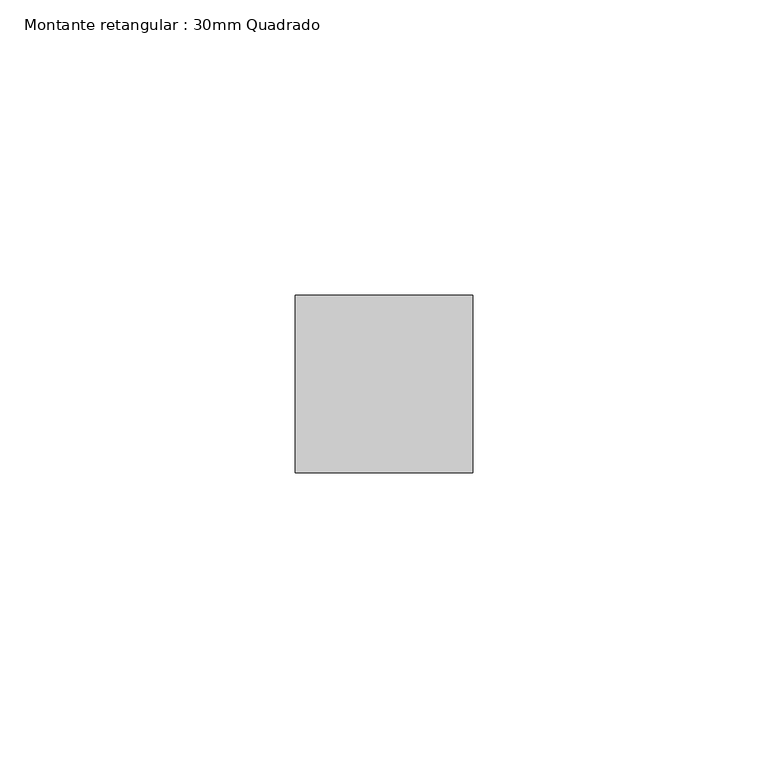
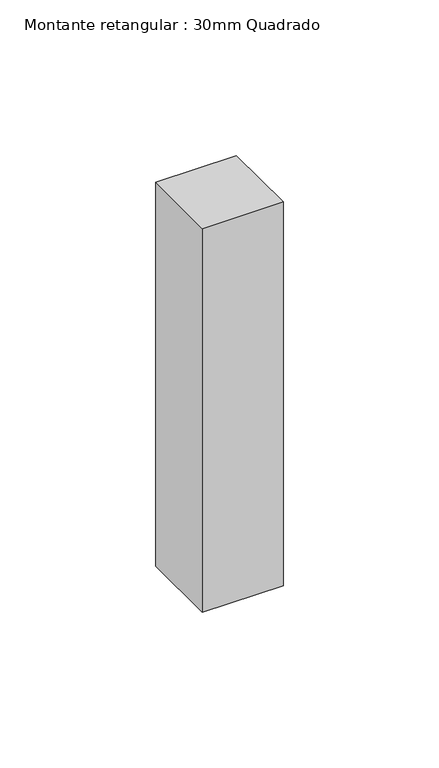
"""IFC4 building model written with IfcOpenShell, lengths in millimetres: member geometry, Montante retangular : 30mm Quadrado."""

from ifc_helpers import new_model, si_unit, frame, origin, place, context, project, spatial, polyline, outline, extrude, source, transform, mapped, element, save


def montante_retangular_30mm_quadrado_b6c22345(model_context):
    return source(origin(), model_context, "Body", "SweptSolid", [
        extrude(outline(polyline([(0.0, 15.0), (0.0, -15.0), (-30.0, -15.0), (-30.0, 15.0), (0.0, 15.0)])), frame((0.0, 0.0, -150.4776861), z_axis=(0.0, 0.0, 1.0), x_axis=(1.0, 0.0, 0.0)), (0.0, 0.0, 1.0), 150.4776861),
    ])


if __name__ == "__main__":
    model = new_model("IFC4")
    model_context = context("Model", 3, world=origin())
    ifc_project = project(units=[si_unit("LENGTHUNIT", "METRE", prefix="MILLI")], contexts=[model_context])
    site = spatial("IfcSite", under=ifc_project)
    building = spatial("IfcBuilding", under=site)
    placement = place(None, origin())
    montante_retangular_30mm_quadrado_shape = montante_retangular_30mm_quadrado_b6c22345(model_context)
    element("IfcMember", 1, ObjectType="Montante retangular : 30mm Quadrado", at=placement, inside=building, context=model_context, shape_type="MappedRepresentation", body=[
        mapped(montante_retangular_30mm_quadrado_shape, transform((0.0, 0.0, 0.0), x_axis=(1.0, 0.0, 0.0), y_axis=(0.0, 1.0, 0.0), z_axis=(0.0, 0.0, 1.0))),
    ])
    save(model, "model.ifc")
